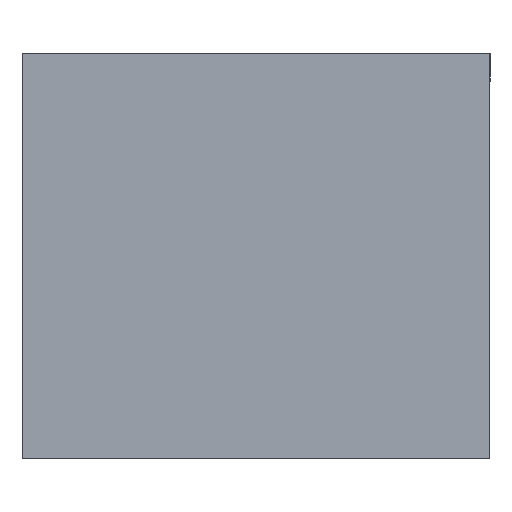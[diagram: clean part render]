
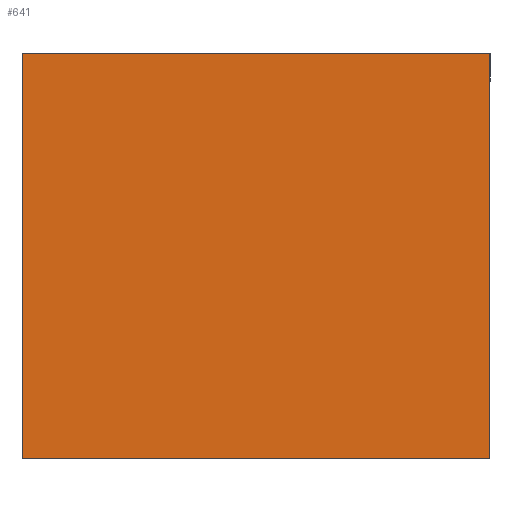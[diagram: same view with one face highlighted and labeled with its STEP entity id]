
A CAD part, left-side view. The second image highlights one B-rep face of the part: STEP entity #641.
In plain terms, the highlighted planar face has unit normal (-1, 0, 0).
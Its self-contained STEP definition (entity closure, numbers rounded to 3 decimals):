
#3 = VERTEX_POINT ( 'NONE', #1332 ) ;
#227 = EDGE_LOOP ( 'NONE', ( #889, #755, #904, #946 ) ) ;
#233 = PLANE ( 'NONE',  #407 ) ;
#261 = LINE ( 'NONE', #614, #399 ) ;
#298 = EDGE_CURVE ( 'NONE', #3, #1017, #261, .T. ) ;
#328 = CARTESIAN_POINT ( 'NONE',  ( -65., -12.7, 22. ) ) ;
#399 = VECTOR ( 'NONE', #618, 1000. ) ;
#407 = AXIS2_PLACEMENT_3D ( 'NONE', #763, #660, #661 ) ;
#475 = VERTEX_POINT ( 'NONE', #328 ) ;
#562 = DIRECTION ( 'NONE',  ( 0., -1., 0. ) ) ;
#577 = CARTESIAN_POINT ( 'NONE',  ( -65., -12.7, 0. ) ) ;
#614 = CARTESIAN_POINT ( 'NONE',  ( -65., 12.7, 0. ) ) ;
#618 = DIRECTION ( 'NONE',  ( 0., 0., 1. ) ) ;
#641 = ADVANCED_FACE ( 'NONE', ( #1399 ), #233, .T. ) ;
#660 = DIRECTION ( 'NONE',  ( -1., 0., 0. ) ) ;
#661 = DIRECTION ( 'NONE',  ( 0., 0., 1. ) ) ;
#755 = ORIENTED_EDGE ( 'NONE', *, *, #893, .T. ) ;
#761 = CARTESIAN_POINT ( 'NONE',  ( -65., -12.7, 0. ) ) ;
#763 = CARTESIAN_POINT ( 'NONE',  ( -65., -12.7, 0. ) ) ;
#777 = DIRECTION ( 'NONE',  ( 0., 0., 1. ) ) ;
#845 = CARTESIAN_POINT ( 'NONE',  ( -65., 0., 22. ) ) ;
#870 = DIRECTION ( 'NONE',  ( 0., -1., 0. ) ) ;
#873 = LINE ( 'NONE', #577, #887 ) ;
#887 = VECTOR ( 'NONE', #562, 1000. ) ;
#889 = ORIENTED_EDGE ( 'NONE', *, *, #1150, .T. ) ;
#893 = EDGE_CURVE ( 'NONE', #1536, #475, #1184, .T. ) ;
#904 = ORIENTED_EDGE ( 'NONE', *, *, #950, .F. ) ;
#946 = ORIENTED_EDGE ( 'NONE', *, *, #298, .F. ) ;
#950 = EDGE_CURVE ( 'NONE', #1017, #475, #1192, .T. ) ;
#1014 = CARTESIAN_POINT ( 'NONE',  ( -65., 12.7, 22. ) ) ;
#1017 = VERTEX_POINT ( 'NONE', #1014 ) ;
#1150 = EDGE_CURVE ( 'NONE', #3, #1536, #873, .T. ) ;
#1172 = VECTOR ( 'NONE', #870, 1000. ) ;
#1184 = LINE ( 'NONE', #761, #1187 ) ;
#1187 = VECTOR ( 'NONE', #777, 1000. ) ;
#1192 = LINE ( 'NONE', #845, #1172 ) ;
#1332 = CARTESIAN_POINT ( 'NONE',  ( -65., 12.7, 0. ) ) ;
#1365 = CARTESIAN_POINT ( 'NONE',  ( -65., -12.7, 0. ) ) ;
#1399 = FACE_OUTER_BOUND ( 'NONE', #227, .T. ) ;
#1536 = VERTEX_POINT ( 'NONE', #1365 ) ;
